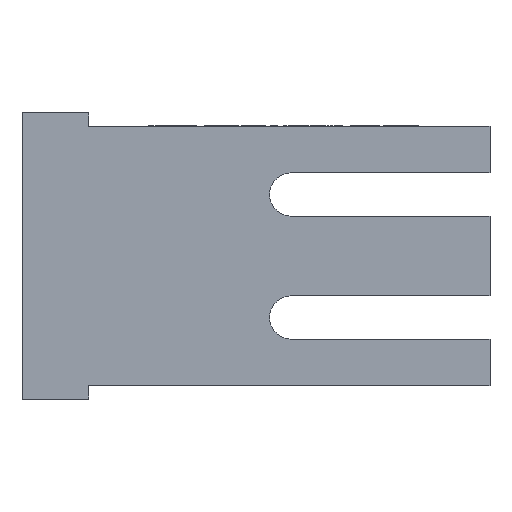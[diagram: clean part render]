
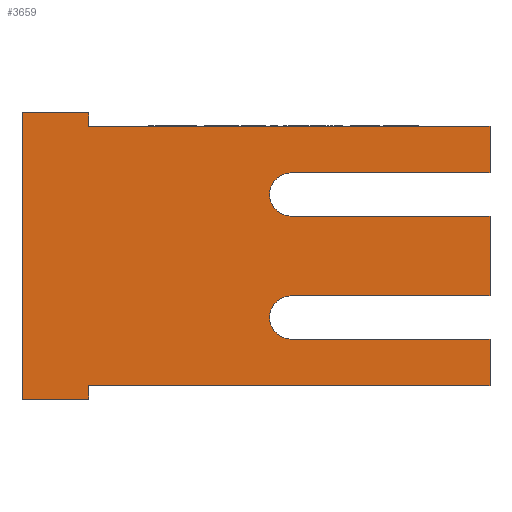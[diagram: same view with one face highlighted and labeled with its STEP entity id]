
A CAD part, left-side view. The second image highlights one B-rep face of the part: STEP entity #3659.
In plain terms, the highlighted planar face has unit normal (-1, 0, 0).
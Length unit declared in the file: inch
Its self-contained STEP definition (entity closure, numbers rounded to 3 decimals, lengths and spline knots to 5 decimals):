
#232=CIRCLE('',#3878,0.03189);
#233=CIRCLE('',#3885,0.03189);
#282=FACE_OUTER_BOUND('',#493,.T.);
#493=EDGE_LOOP('',(#2651,#2652,#2653,#2654,#2655,#2656,#2657,#2658,#2659,
#2660,#2661,#2662,#2663,#2664,#2665,#2666));
#697=LINE('',#4761,#1095);
#701=LINE('',#4769,#1099);
#720=LINE('',#4810,#1118);
#722=LINE('',#4814,#1120);
#723=LINE('',#4816,#1121);
#725=LINE('',#4820,#1123);
#726=LINE('',#4823,#1124);
#783=LINE('',#5202,#1181);
#790=LINE('',#5215,#1188);
#793=LINE('',#5223,#1191);
#800=LINE('',#5236,#1198);
#807=LINE('',#5249,#1205);
#810=LINE('',#5257,#1208);
#817=LINE('',#5269,#1215);
#1095=VECTOR('',#4067,0.3937);
#1099=VECTOR('',#4071,0.3937);
#1118=VECTOR('',#4100,0.3937);
#1120=VECTOR('',#4104,0.3937);
#1121=VECTOR('',#4107,0.3937);
#1123=VECTOR('',#4111,0.3937);
#1124=VECTOR('',#4114,0.3937);
#1181=VECTOR('',#4173,0.3937);
#1188=VECTOR('',#4184,0.3937);
#1191=VECTOR('',#4193,0.3937);
#1198=VECTOR('',#4204,0.3937);
#1205=VECTOR('',#4215,0.3937);
#1208=VECTOR('',#4224,0.3937);
#1215=VECTOR('',#4235,0.3937);
#1481=VERTEX_POINT('',#4758);
#1482=VERTEX_POINT('',#4760);
#1485=VERTEX_POINT('',#4766);
#1486=VERTEX_POINT('',#4768);
#1503=VERTEX_POINT('',#4808);
#1504=VERTEX_POINT('',#4812);
#1505=VERTEX_POINT('',#4818);
#1506=VERTEX_POINT('',#4822);
#1615=VERTEX_POINT('',#5201);
#1619=VERTEX_POINT('',#5214);
#1620=VERTEX_POINT('',#5218);
#1621=VERTEX_POINT('',#5222);
#1625=VERTEX_POINT('',#5235);
#1629=VERTEX_POINT('',#5248);
#1630=VERTEX_POINT('',#5252);
#1631=VERTEX_POINT('',#5256);
#1853=EDGE_CURVE('',#1482,#1481,#697,.T.);
#1857=EDGE_CURVE('',#1486,#1485,#701,.T.);
#1878=EDGE_CURVE('',#1503,#1486,#720,.T.);
#1880=EDGE_CURVE('',#1504,#1503,#722,.T.);
#1881=EDGE_CURVE('',#1481,#1504,#723,.T.);
#1883=EDGE_CURVE('',#1485,#1505,#725,.T.);
#1884=EDGE_CURVE('',#1506,#1482,#726,.T.);
#1994=EDGE_CURVE('',#1615,#1506,#783,.T.);
#2001=EDGE_CURVE('',#1619,#1615,#790,.T.);
#2003=EDGE_CURVE('',#1620,#1619,#232,.T.);
#2005=EDGE_CURVE('',#1621,#1620,#793,.T.);
#2012=EDGE_CURVE('',#1625,#1621,#800,.T.);
#2019=EDGE_CURVE('',#1629,#1625,#807,.T.);
#2021=EDGE_CURVE('',#1630,#1629,#233,.T.);
#2023=EDGE_CURVE('',#1631,#1630,#810,.T.);
#2030=EDGE_CURVE('',#1505,#1631,#817,.T.);
#2651=ORIENTED_EDGE('',*,*,#2023,.T.);
#2652=ORIENTED_EDGE('',*,*,#2021,.T.);
#2653=ORIENTED_EDGE('',*,*,#2019,.T.);
#2654=ORIENTED_EDGE('',*,*,#2012,.T.);
#2655=ORIENTED_EDGE('',*,*,#2005,.T.);
#2656=ORIENTED_EDGE('',*,*,#2003,.T.);
#2657=ORIENTED_EDGE('',*,*,#2001,.T.);
#2658=ORIENTED_EDGE('',*,*,#1994,.T.);
#2659=ORIENTED_EDGE('',*,*,#1884,.T.);
#2660=ORIENTED_EDGE('',*,*,#1853,.T.);
#2661=ORIENTED_EDGE('',*,*,#1881,.T.);
#2662=ORIENTED_EDGE('',*,*,#1880,.T.);
#2663=ORIENTED_EDGE('',*,*,#1878,.T.);
#2664=ORIENTED_EDGE('',*,*,#1857,.T.);
#2665=ORIENTED_EDGE('',*,*,#1883,.T.);
#2666=ORIENTED_EDGE('',*,*,#2030,.T.);
#3472=PLANE('',#3889);
#3659=ADVANCED_FACE('',(#282),#3472,.T.);
#3878=AXIS2_PLACEMENT_3D('',#5219,#4188,#4189);
#3885=AXIS2_PLACEMENT_3D('',#5253,#4219,#4220);
#3889=AXIS2_PLACEMENT_3D('',#5270,#4236,#4237);
#4067=DIRECTION('',(0.,0.,1.));
#4071=DIRECTION('',(0.,0.,1.));
#4100=DIRECTION('',(0.,-1.,0.));
#4104=DIRECTION('',(0.,0.,-1.));
#4107=DIRECTION('',(0.,1.,0.));
#4111=DIRECTION('',(0.,-1.,0.));
#4114=DIRECTION('',(0.,1.,0.));
#4173=DIRECTION('',(0.,0.,1.));
#4184=DIRECTION('',(0.,-1.,0.));
#4188=DIRECTION('center_axis',(1.,0.,0.));
#4189=DIRECTION('ref_axis',(0.,0.,-1.));
#4193=DIRECTION('',(0.,1.,0.));
#4204=DIRECTION('',(0.,0.,1.));
#4215=DIRECTION('',(0.,-1.,0.));
#4219=DIRECTION('center_axis',(1.,0.,0.));
#4220=DIRECTION('ref_axis',(0.,0.,1.));
#4224=DIRECTION('',(0.,1.,0.));
#4235=DIRECTION('',(0.,0.,1.));
#4236=DIRECTION('center_axis',(-1.,0.,0.));
#4237=DIRECTION('ref_axis',(0.,0.,1.));
#4758=CARTESIAN_POINT('',(-0.12205,0.29528,0.21063));
#4760=CARTESIAN_POINT('',(-0.12205,0.29528,0.19094));
#4761=CARTESIAN_POINT('',(-0.12205,0.29528,0.21063));
#4766=CARTESIAN_POINT('',(-0.12205,0.29528,-0.19094));
#4768=CARTESIAN_POINT('',(-0.12205,0.29528,-0.21063));
#4769=CARTESIAN_POINT('',(-0.12205,0.29528,0.21063));
#4808=CARTESIAN_POINT('',(-0.12205,0.3937,-0.21063));
#4810=CARTESIAN_POINT('',(-0.12205,0.29528,-0.21063));
#4812=CARTESIAN_POINT('',(-0.12205,0.3937,0.21063));
#4814=CARTESIAN_POINT('',(-0.12205,0.3937,-0.21063));
#4816=CARTESIAN_POINT('',(-0.12205,0.3937,0.21063));
#4818=CARTESIAN_POINT('',(-0.12205,-0.29528,-0.19094));
#4820=CARTESIAN_POINT('',(-0.12205,-0.29528,-0.19094));
#4822=CARTESIAN_POINT('',(-0.12205,-0.29528,0.19094));
#4823=CARTESIAN_POINT('',(-0.12205,0.29528,0.19094));
#5201=CARTESIAN_POINT('',(-0.12205,-0.29528,0.12244));
#5202=CARTESIAN_POINT('',(-0.12205,-0.29528,0.19094));
#5214=CARTESIAN_POINT('',(-0.12205,-0.00276,0.12244));
#5215=CARTESIAN_POINT('',(-0.12205,-0.00138,0.12244));
#5218=CARTESIAN_POINT('',(-0.12205,-0.00276,0.05866));
#5219=CARTESIAN_POINT('Origin',(-0.12205,-0.00276,
0.09055));
#5222=CARTESIAN_POINT('',(-0.12205,-0.29528,0.05866));
#5223=CARTESIAN_POINT('',(-0.12205,-0.14764,0.05866));
#5235=CARTESIAN_POINT('',(-0.12205,-0.29528,-0.05866));
#5236=CARTESIAN_POINT('',(-0.12205,-0.29528,0.19094));
#5248=CARTESIAN_POINT('',(-0.12205,-0.00276,-0.05866));
#5249=CARTESIAN_POINT('',(-0.12205,-0.14764,-0.05866));
#5252=CARTESIAN_POINT('',(-0.12205,-0.00276,-0.12244));
#5253=CARTESIAN_POINT('Origin',(-0.12205,-0.00276,
-0.09055));
#5256=CARTESIAN_POINT('',(-0.12205,-0.29528,-0.12244));
#5257=CARTESIAN_POINT('',(-0.12205,-0.00138,-0.12244));
#5269=CARTESIAN_POINT('',(-0.12205,-0.29528,0.19094));
#5270=CARTESIAN_POINT('Origin',(-0.12205,0.,0.));
